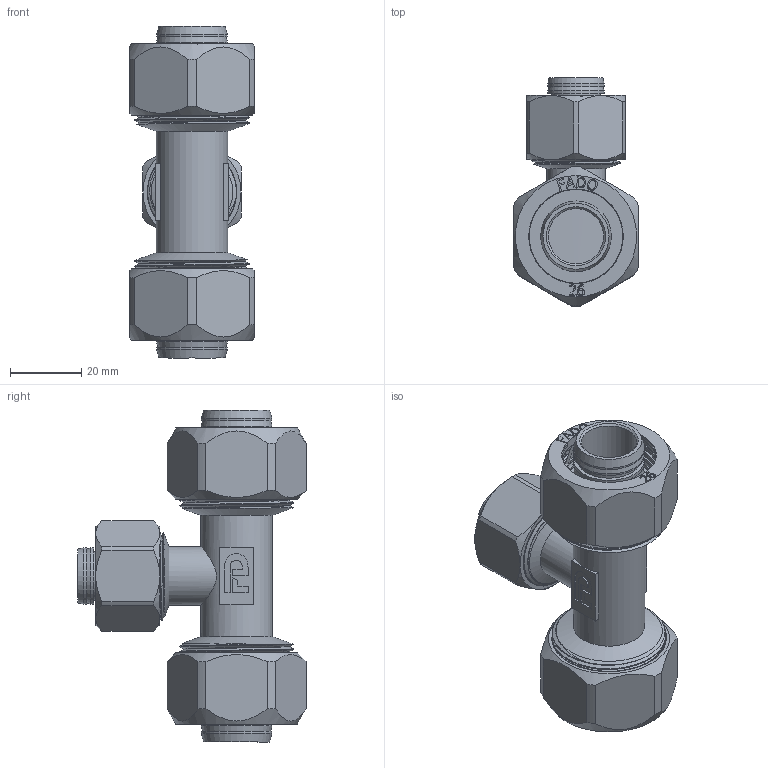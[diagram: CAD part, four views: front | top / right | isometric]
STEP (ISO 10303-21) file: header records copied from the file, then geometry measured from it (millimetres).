
FILE_DESCRIPTION(/* description */ (''),/* implementation_level */ '2;1');
FILE_NAME(/* name */ 'C:\Users\Doom\Desktop\Фадотех\Обжим\RFT07 26x20x26 30.03.2020\RFT07 26x20x26 30.03.2020.stp',/* time_stamp */ '2022-06-01T12:01:19+03:00',/* author */ ('Doom'),/* organization */ (''),/* preprocessor_version */ 'ST-DEVELOPER v18',/* originating_system */ 'Autodesk Inventor 2020',/* authorisation */ '');
FILE_SCHEMA (('AUTOMOTIVE_DESIGN { 1 0 10303 214 3 1 1 }'));
Products named in the file (8): RFT07 26x20x26 30.03.2020; RFT07 26x20x26 30.03.2020_1; Olive 20 15.02.2020; Olive 26 15.02.2020; FADO MC Nut-20 15.02.2020; FADO MC Nut-26 15.02.2020; FADO MC Socket-20 15.02.2020; FADO MC Socket-26 15.02.2020
Assembly tree (10 placements, depth 2):
  RFT07 26x20x26 30.03.2020
    RFT07 26x20x26 30.03.2020_1
    Olive 26 15.02.2020  x2
    Olive 20 15.02.2020
    FADO MC Nut-20 15.02.2020
    FADO MC Nut-26 15.02.2020  x2
    FADO MC Socket-20 15.02.2020
    FADO MC Socket-26 15.02.2020  x2
Bounding box: 35 x 64 x 93 mm (x, y, z)
Volume: 47378 mm3; surface area: 62069.8 mm2
Topology: 16 solids, 16 shells, 1519 faces, 4190 edges, 2825 vertices
Faces by surface type: bspline 792, plane 431, cylinder 228, cone 60, torus 8
Full cylindrical faces by diameter (mm): 11.5 x1, 12 x1, 13.531 x2, 14.5 x1, 15.5 x2, 15.802 x5, 16 x1, 16.5 x2, 17.391 x1, 17.5 x1, 17.6 x4, 18 x1, 19.8 x10, 20 x1, 20.5 x1, 21 x2, 22.776 x10, 23 x1, 24 x4, 24.1 x1, 24.5 x2, 25 x8, 26.5 x2, 29.776 x4, 30 x2, 30.517 x22, 30.6 x2, 32 x17
Entity records: 64032 total; most frequent: CARTESIAN_POINT 40369, ORIENTED_EDGE 5780, DIRECTION 3253, EDGE_CURVE 2890, VERTEX_POINT 1949, B_SPLINE_CURVE_WITH_KNOTS 1196, EDGE_LOOP 1163, LINE 1125
